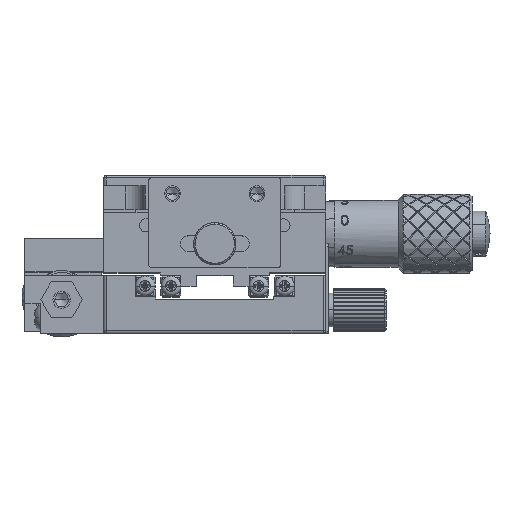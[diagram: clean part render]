
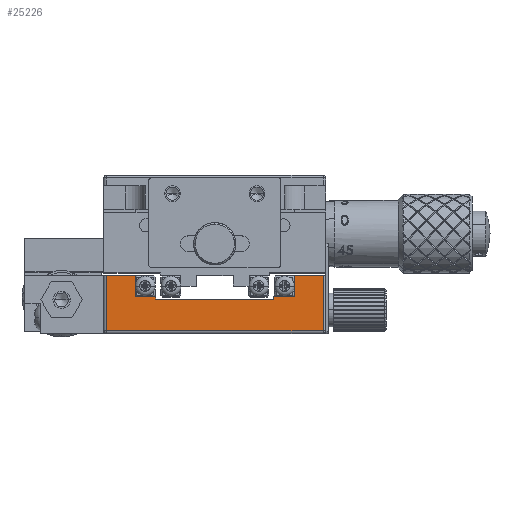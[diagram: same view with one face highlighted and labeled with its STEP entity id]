
A CAD part, top view. The second image highlights one B-rep face of the part: STEP entity #25226.
In plain terms, the highlighted planar face has unit normal (0, 0, 1) as drawn and (-1, 0, 0) by its records, which use the part's own axes.
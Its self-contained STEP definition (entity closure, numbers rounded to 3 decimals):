
#11 = DIRECTION ( 'NONE',  ( 0., 0., 1. ) ) ;
#2817 = DIRECTION ( 'NONE',  ( 0., 1., 0. ) ) ;
#4298 = PLANE ( 'NONE',  #15237 ) ;
#4356 = EDGE_CURVE ( 'NONE', #93991, #24902, #61181, .T. ) ;
#4450 = DIRECTION ( 'NONE',  ( 0., 0., 1. ) ) ;
#4553 = ORIENTED_EDGE ( 'NONE', *, *, #32603, .F. ) ;
#4873 = DIRECTION ( 'NONE',  ( 0., 1., 0. ) ) ;
#6053 = VECTOR ( 'NONE', #37507, 1000. ) ;
#6631 = ORIENTED_EDGE ( 'NONE', *, *, #4356, .T. ) ;
#7082 = LINE ( 'NONE', #64620, #63828 ) ;
#11760 = CARTESIAN_POINT ( 'NONE',  ( -21., 0., -11.2 ) ) ;
#13250 = ORIENTED_EDGE ( 'NONE', *, *, #51448, .T. ) ;
#15237 = AXIS2_PLACEMENT_3D ( 'NONE', #56031, #63522, #19223 ) ;
#15542 = CARTESIAN_POINT ( 'NONE',  ( -21., 0., 15. ) ) ;
#15643 = CARTESIAN_POINT ( 'NONE',  ( -21., 4., 15. ) ) ;
#16701 = CARTESIAN_POINT ( 'NONE',  ( -21., 4., 0. ) ) ;
#19006 = EDGE_CURVE ( 'NONE', #64325, #82199, #7082, .T. ) ;
#19223 = DIRECTION ( 'NONE',  ( 0., 0., -1. ) ) ;
#21246 = CARTESIAN_POINT ( 'NONE',  ( -21., 4.5, 11.2 ) ) ;
#22189 = CARTESIAN_POINT ( 'NONE',  ( -21., 0., -20.5 ) ) ;
#24126 = DIRECTION ( 'NONE',  ( 0., 0., 1. ) ) ;
#24246 = FACE_OUTER_BOUND ( 'NONE', #27848, .T. ) ;
#24348 = DIRECTION ( 'NONE',  ( 0., 0., -1. ) ) ;
#24737 = ORIENTED_EDGE ( 'NONE', *, *, #87712, .T. ) ;
#24902 = VERTEX_POINT ( 'NONE', #44806 ) ;
#25179 = LINE ( 'NONE', #16701, #59889 ) ;
#25226 = ADVANCED_FACE ( 'NONE', ( #24246 ), #4298, .F. ) ;
#26090 = CARTESIAN_POINT ( 'NONE',  ( -21., 10.5, -20.5 ) ) ;
#26720 = ORIENTED_EDGE ( 'NONE', *, *, #19006, .T. ) ;
#27048 = VECTOR ( 'NONE', #36804, 1000. ) ;
#27688 = CARTESIAN_POINT ( 'NONE',  ( -21., 0., 20.5 ) ) ;
#27848 = EDGE_LOOP ( 'NONE', ( #93320, #58134, #57448, #6631, #72987, #13250, #24737, #26720, #51149, #71860, #47908, #4553 ) ) ;
#28733 = CARTESIAN_POINT ( 'NONE',  ( -21., 4.5, -11.2 ) ) ;
#29389 = CARTESIAN_POINT ( 'NONE',  ( -21., 0., 11.2 ) ) ;
#29453 = EDGE_CURVE ( 'NONE', #24902, #68305, #63133, .T. ) ;
#32603 = EDGE_CURVE ( 'NONE', #55537, #61738, #88493, .T. ) ;
#34386 = DIRECTION ( 'NONE',  ( 0., 0., 1. ) ) ;
#34708 = EDGE_CURVE ( 'NONE', #82199, #42836, #25179, .T. ) ;
#34966 = LINE ( 'NONE', #93678, #76639 ) ;
#36669 = CARTESIAN_POINT ( 'NONE',  ( -21., 4., 11.2 ) ) ;
#36788 = VECTOR ( 'NONE', #2817, 1000. ) ;
#36804 = DIRECTION ( 'NONE',  ( 0., 1., 0. ) ) ;
#37507 = DIRECTION ( 'NONE',  ( 0., -1., 0. ) ) ;
#39169 = VECTOR ( 'NONE', #4873, 1000. ) ;
#40063 = EDGE_CURVE ( 'NONE', #94368, #61738, #73308, .T. ) ;
#40222 = VERTEX_POINT ( 'NONE', #15542 ) ;
#42818 = CARTESIAN_POINT ( 'NONE',  ( -21., 4., -15. ) ) ;
#42836 = VERTEX_POINT ( 'NONE', #64747 ) ;
#44806 = CARTESIAN_POINT ( 'NONE',  ( -21., 10.5, 20.5 ) ) ;
#46615 = DIRECTION ( 'NONE',  ( 0., 0., 1. ) ) ;
#47107 = CARTESIAN_POINT ( 'NONE',  ( -21., 0., 15. ) ) ;
#47908 = ORIENTED_EDGE ( 'NONE', *, *, #40063, .T. ) ;
#48761 = CARTESIAN_POINT ( 'NONE',  ( -21., 4., 0. ) ) ;
#50640 = LINE ( 'NONE', #83869, #85433 ) ;
#51149 = ORIENTED_EDGE ( 'NONE', *, *, #34708, .T. ) ;
#51448 = EDGE_CURVE ( 'NONE', #68305, #70001, #65118, .T. ) ;
#52383 = CARTESIAN_POINT ( 'NONE',  ( -21., 11., -20.5 ) ) ;
#52827 = VERTEX_POINT ( 'NONE', #15643 ) ;
#53634 = EDGE_CURVE ( 'NONE', #40222, #93991, #34966, .T. ) ;
#55537 = VERTEX_POINT ( 'NONE', #36669 ) ;
#55955 = VECTOR ( 'NONE', #85940, 1000. ) ;
#56031 = CARTESIAN_POINT ( 'NONE',  ( -21., 11., 21. ) ) ;
#56653 = VECTOR ( 'NONE', #4450, 1000. ) ;
#57162 = DIRECTION ( 'NONE',  ( 0., 1., 0. ) ) ;
#57448 = ORIENTED_EDGE ( 'NONE', *, *, #53634, .T. ) ;
#58134 = ORIENTED_EDGE ( 'NONE', *, *, #87065, .F. ) ;
#59090 = EDGE_CURVE ( 'NONE', #42836, #94368, #75695, .T. ) ;
#59889 = VECTOR ( 'NONE', #24126, 1000. ) ;
#61181 = LINE ( 'NONE', #86192, #39169 ) ;
#61738 = VERTEX_POINT ( 'NONE', #21246 ) ;
#63133 = LINE ( 'NONE', #91069, #75876 ) ;
#63522 = DIRECTION ( 'NONE',  ( 1., 0., 0. ) ) ;
#63828 = VECTOR ( 'NONE', #57162, 1000. ) ;
#64325 = VERTEX_POINT ( 'NONE', #76260 ) ;
#64620 = CARTESIAN_POINT ( 'NONE',  ( -21., 0., -15. ) ) ;
#64747 = CARTESIAN_POINT ( 'NONE',  ( -21., 4., -11.2 ) ) ;
#65118 = LINE ( 'NONE', #52383, #6053 ) ;
#68305 = VERTEX_POINT ( 'NONE', #26090 ) ;
#68623 = VECTOR ( 'NONE', #11, 1000. ) ;
#70001 = VERTEX_POINT ( 'NONE', #22189 ) ;
#71540 = LINE ( 'NONE', #47107, #36788 ) ;
#71860 = ORIENTED_EDGE ( 'NONE', *, *, #59090, .T. ) ;
#72987 = ORIENTED_EDGE ( 'NONE', *, *, #29453, .T. ) ;
#73308 = LINE ( 'NONE', #88711, #68623 ) ;
#75695 = LINE ( 'NONE', #11760, #55955 ) ;
#75876 = VECTOR ( 'NONE', #24348, 1000. ) ;
#76206 = EDGE_CURVE ( 'NONE', #55537, #52827, #93828, .T. ) ;
#76260 = CARTESIAN_POINT ( 'NONE',  ( -21., 0., -15. ) ) ;
#76639 = VECTOR ( 'NONE', #34386, 1000. ) ;
#82199 = VERTEX_POINT ( 'NONE', #42818 ) ;
#83869 = CARTESIAN_POINT ( 'NONE',  ( -21., 0., 21. ) ) ;
#85433 = VECTOR ( 'NONE', #46615, 1000. ) ;
#85940 = DIRECTION ( 'NONE',  ( 0., 1., 0. ) ) ;
#86192 = CARTESIAN_POINT ( 'NONE',  ( -21., 11., 20.5 ) ) ;
#87065 = EDGE_CURVE ( 'NONE', #40222, #52827, #71540, .T. ) ;
#87712 = EDGE_CURVE ( 'NONE', #70001, #64325, #50640, .T. ) ;
#88493 = LINE ( 'NONE', #29389, #27048 ) ;
#88711 = CARTESIAN_POINT ( 'NONE',  ( -21., 4.5, 0. ) ) ;
#91069 = CARTESIAN_POINT ( 'NONE',  ( -21., 10.5, -20.5 ) ) ;
#93320 = ORIENTED_EDGE ( 'NONE', *, *, #76206, .T. ) ;
#93678 = CARTESIAN_POINT ( 'NONE',  ( -21., 0., 21. ) ) ;
#93828 = LINE ( 'NONE', #48761, #56653 ) ;
#93991 = VERTEX_POINT ( 'NONE', #27688 ) ;
#94368 = VERTEX_POINT ( 'NONE', #28733 ) ;
